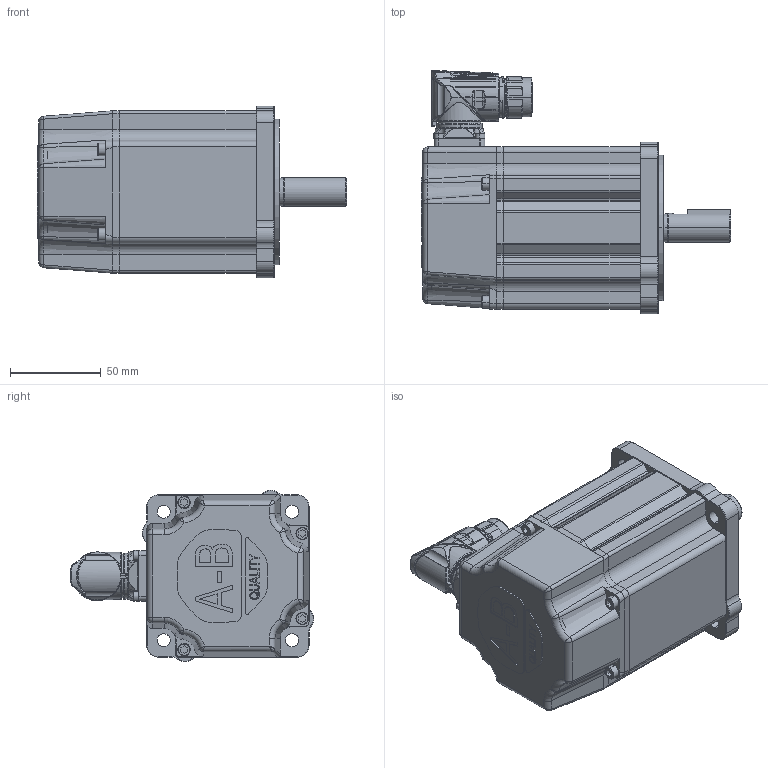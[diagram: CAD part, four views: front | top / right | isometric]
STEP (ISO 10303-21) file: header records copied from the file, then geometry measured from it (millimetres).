
FILE_DESCRIPTION (( 'STEP AP214' ), '1' );
FILE_NAME ('Rockwell Automation-$PARTNUMBER.STEP', '2014-02-13T16:29:22', ( 'Windows User' ), ( '' ), 'SwSTEP 2.0', 'SolidWorks 2014', '' );
FILE_SCHEMA (( 'AUTOMOTIVE_DESIGN' ));
Length unit declared in the file: inch
Products named in the file (9): Rockwell Automation-$PARTNUMBER_Rockwell Automation-VPL-x1001x-xJx2xx_91290A115_ANY; Rockwell Automation-$PARTNUMBER_Rockwell Automation-VPL-x1001x-xJx2xx_M23_Connector; Rockwell Automation-$PARTNUMBER_Rockwell Automation-VPL-x1001x-xJx2xx_10000014326-M23_ASM; Rockwell Automation-$PARTNUMBER_Rockwell Automation-VPL-x1001x-xJx2xx_10000014326-1; Rockwell Automation-$PARTNUMBER_Rockwell Automation-VPL-x1001x-xJx2xx_10000014325-1; Rockwell Automation-$PARTNUMBER_Rockwell Automation-VPL-x1001x-xJx2xx_10000540833; Rockwell Automation-$PARTNUMBER_Rockwell Automation-VPL-x1001x-xJx2xx_VPL-100-Shaft_1001-SHAFT-KEYED; Rockwell Automation-$PARTNUMBER_Rockwell Automation-VPL-x1001x-xJx2xx_VPL-100-Body_1001; Rockwell Automation-$PARTNUMBER
Assembly tree (11 placements, depth 4):
  Rockwell Automation-$PARTNUMBER
    Rockwell Automation-$PARTNUMBER_Rockwell Automation-VPL-x1001x-xJx2xx_VPL-100-Body_1001
    Rockwell Automation-$PARTNUMBER_Rockwell Automation-VPL-x1001x-xJx2xx_VPL-100-Shaft_1001-SHAFT-KEYED
    Rockwell Automation-$PARTNUMBER_Rockwell Automation-VPL-x1001x-xJx2xx_M23_Connector
      Rockwell Automation-$PARTNUMBER_Rockwell Automation-VPL-x1001x-xJx2xx_10000540833
      Rockwell Automation-$PARTNUMBER_Rockwell Automation-VPL-x1001x-xJx2xx_10000014325-1
      Rockwell Automation-$PARTNUMBER_Rockwell Automation-VPL-x1001x-xJx2xx_10000014326-M23_ASM
        Rockwell Automation-$PARTNUMBER_Rockwell Automation-VPL-x1001x-xJx2xx_10000014326-1
    Rockwell Automation-$PARTNUMBER_Rockwell Automation-VPL-x1001x-xJx2xx_91290A115_ANY  x4
Bounding box: 170.56 x 133.99 x 94.41 mm (x, y, z)
Volume: 350090.3 mm3; surface area: 150762.9 mm2
Topology: 11 solids, 17 shells, 2530 faces, 7074 edges, 4585 vertices
Faces by surface type: cylinder 808, plane 757, bspline 724, cone 221, torus 18, sphere 2
Entity records: 155102 total; most frequent: CARTESIAN_POINT 84788, ORIENTED_EDGE 13693, DIRECTION 8013, EDGE_CURVE 6853, VERTEX_POINT 4483, B_SPLINE_CURVE_WITH_KNOTS 3369, AXIS2_PLACEMENT_3D 2915, EDGE_LOOP 2578
